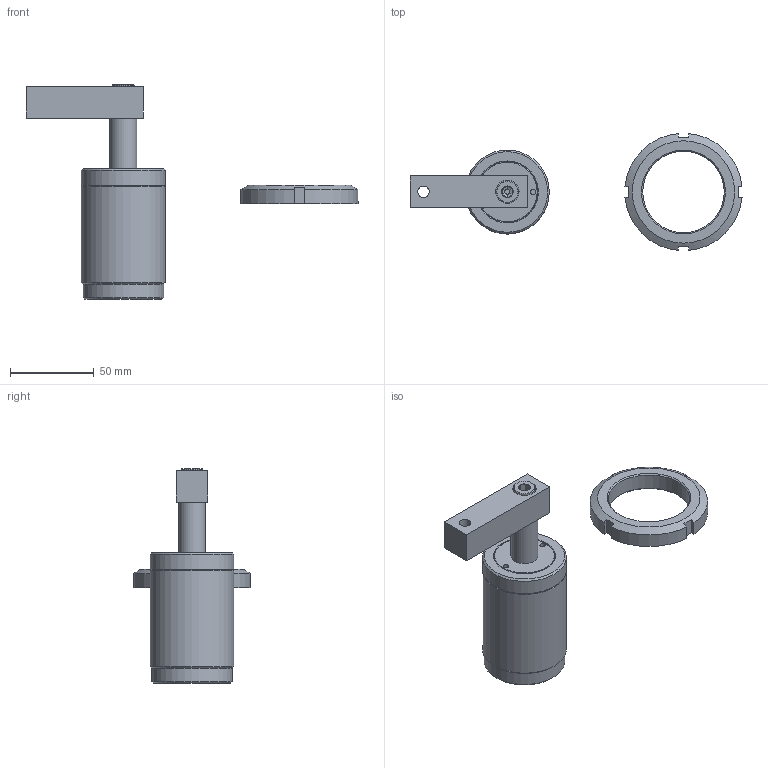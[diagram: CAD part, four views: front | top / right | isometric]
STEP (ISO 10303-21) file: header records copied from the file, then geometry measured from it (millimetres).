
FILE_DESCRIPTION(/* description */ ('Unknown'),/* implementation_level */ '2;1');
FILE_NAME(/* name */ 'ASC-TB32S-A',/* time_stamp */ '2022-08-26T02:42:33+08:00',/* author */ ('Unknown'),/* organization */ ('Unknown'),/* preprocessor_version */ 'ST-DEVELOPER v16.7',/* originating_system */ 'DEX',/* authorisation */ $);
FILE_SCHEMA (('AUTOMOTIVE_DESIGN {1 0 10303 214 3 1 1}'));
Length unit declared in the file: millimetre
Products named in the file (6): ASC-TB32S-A; ASC-3202-S-AXLE CENTRE; ASC-TB32-Nut; ASC-32S-A; ASC-TB32S-CYLINDER; ASC-3202-S-THREAD
Assembly tree (5 placements, depth 2):
  ASC-TB32S-A
    ASC-3202-S-AXLE CENTRE
    ASC-TB32-Nut
    ASC-32S-A
    ASC-TB32S-CYLINDER
    ASC-3202-S-THREAD
Bounding box: 197.87 x 69.74 x 128 mm (x, y, z)
Volume: 179552.6 mm3; surface area: 44832.3 mm2
Topology: 5 solids, 5 shells, 100 faces, 201 edges, 124 vertices
Faces by surface type: plane 45, cone 24, cylinder 22, bspline 6, torus 3
Full cylindrical faces by diameter (mm): 3.2 x2, 6.8 x1, 8 x2, 9 x1, 9.147 x2, 13 x1, 14 x1, 16 x2, 32 x2, 48 x1, 48.5 x1, 50 x2
Entity records: 3239 total; most frequent: CARTESIAN_POINT 542, DIRECTION 406, ORIENTED_EDGE 306, AXIS2_PLACEMENT_3D 177, EDGE_LOOP 158, FACE_BOUND 158, EDGE_CURVE 153, VERTEX_POINT 115
